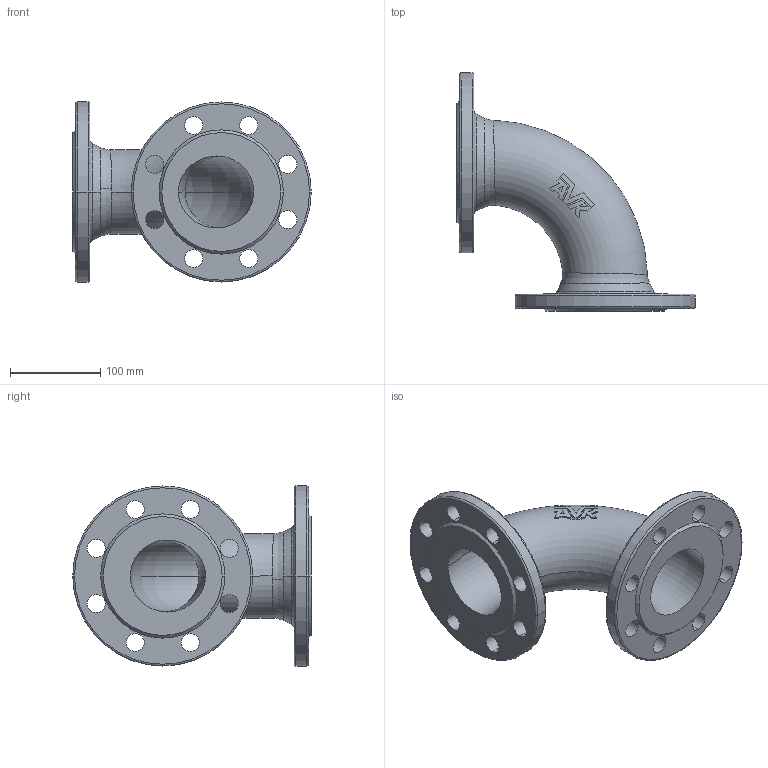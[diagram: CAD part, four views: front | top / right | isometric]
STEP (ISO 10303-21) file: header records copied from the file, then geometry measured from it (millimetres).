
FILE_DESCRIPTION (( 'STEP AP203' ), '1' );
FILE_NAME ('O_712_0610_DN80_1X_REV01.step', '2021-11-19T09:52:27', ( '' ), ( '' ), 'SwSTEP 2.0', 'SolidWorks 2019', '' );
FILE_SCHEMA (( 'CONFIG_CONTROL_DESIGN' ));
Length unit declared in the file: millimetre
Products named in the file (1): O_712_0610_DN80_1X_REV01
Bounding box: 265 x 265 x 200 mm (x, y, z)
Volume: 1311636.4 mm3; surface area: 262319.8 mm2
Topology: 1 solids, 1 shells, 111 faces, 291 edges, 190 vertices
Faces by surface type: plane 41, cylinder 38, torus 20, cone 8, bspline 4
Entity records: 5340 total; most frequent: CARTESIAN_POINT 2547, ORIENTED_EDGE 582, DIRECTION 529, EDGE_CURVE 291, AXIS2_PLACEMENT_3D 224, VERTEX_POINT 190, EDGE_LOOP 153, CIRCLE 116
